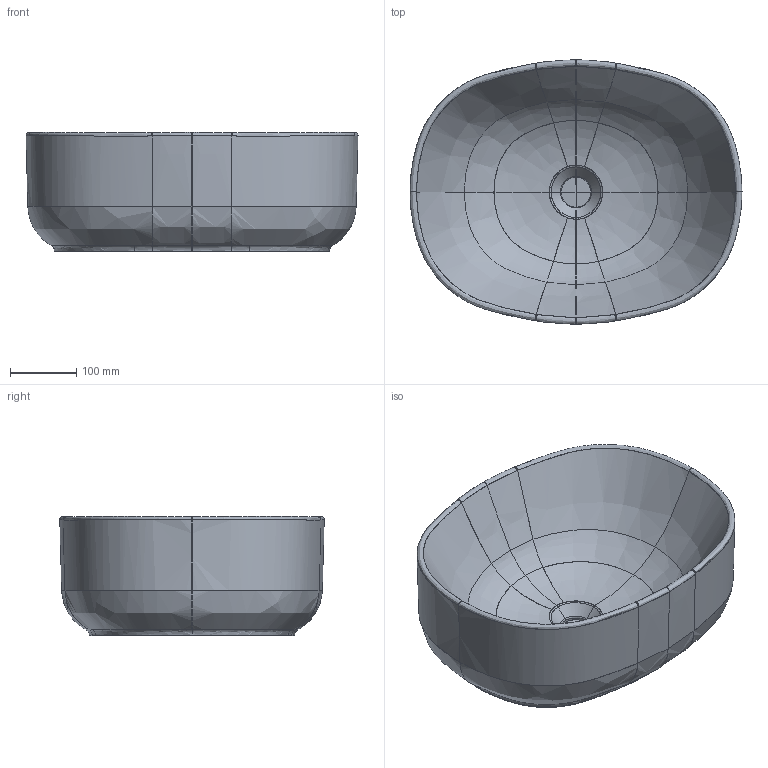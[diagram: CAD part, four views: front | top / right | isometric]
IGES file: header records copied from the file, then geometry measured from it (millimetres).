
Start section: START RECORD GO HERE.
Global section: file name: C:\Users\DE NITTO FULVIO\Desktop\Nic2013-14\Collezione Semplice\ModelliDWG\lavaboSempliceOvale50\lavabo ovale50x40x18.igs; native system: Rhinoceros ( Jan 18 2007 ); preprocessor: Trout Lake IGES 012 Jan 18 2007; date: 140703.200913; units: millimetre
Bounding box: 499.69 x 397.96 x 179.47 mm (x, y, z)
Surface area: 645479.4 mm2 (no closed solid volume)
Topology: 0 solids, 0 shells, 133 faces, 2201 edges, 2201 vertices
Faces by surface type: bspline 133
